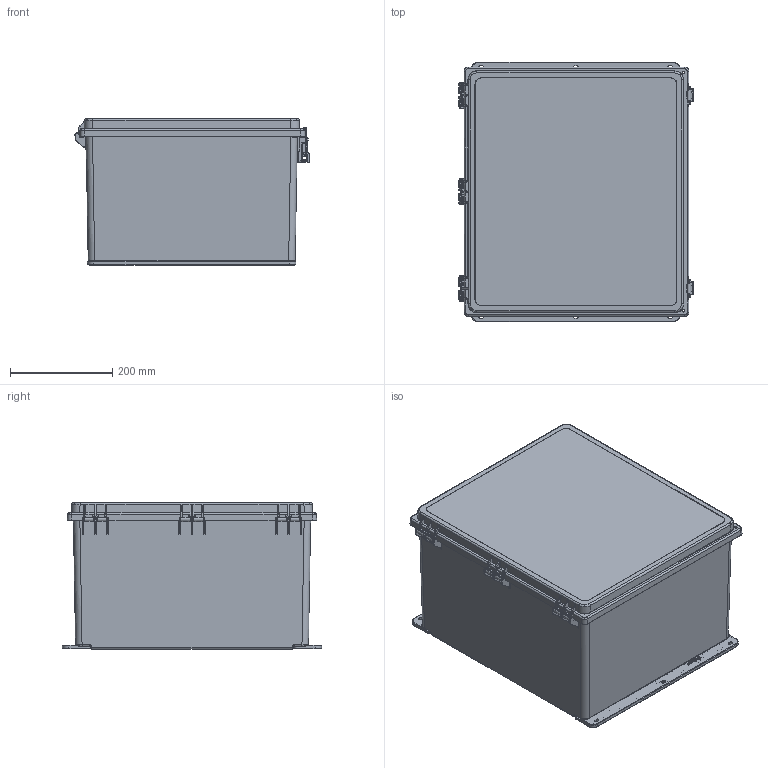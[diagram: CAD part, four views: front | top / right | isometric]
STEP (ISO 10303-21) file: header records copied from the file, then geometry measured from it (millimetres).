
FILE_DESCRIPTION (( 'STEP AP203' ), '1' );
FILE_NAME ('a181610phc.STEP', '2019-07-12T19:28:32', ( '' ), ( '' ), 'SwSTEP 2.0', 'SolidWorks 2016', '' );
FILE_SCHEMA (( 'CONFIG_CONTROL_DESIGN' ));
Length unit declared in the file: inch
Products named in the file (8): 87938571_87938571; a181610phc; 87925610_87925610; 87925631_87925631; 87925639_87925639; 87934975_87934975; 87934973_87934973; 87934971_87934971
Assembly tree (9 placements, depth 3):
  a181610phc
    87925610_87925610
    87925631_87925631
    87925639_87925639  x2
    87938571_87938571  x2
      87934975_87934975
      87934973_87934973
      87934971_87934971
Bounding box: 458.28 x 507.24 x 286.22 mm (x, y, z)
Volume: 3773872.3 mm3; surface area: 2050851.1 mm2
Topology: 12 solids, 12 shells, 6353 faces, 16049 edges, 9308 vertices
Faces by surface type: cylinder 2070, plane 1892, bspline 1421, sphere 579, torus 292, cone 99
Entity records: 171776 total; most frequent: CARTESIAN_POINT 73189, ORIENTED_EDGE 22108, DIRECTION 17962, EDGE_CURVE 11054, VERTEX_POINT 6680, AXIS2_PLACEMENT_3D 6275, LINE 5412, VECTOR 5412
